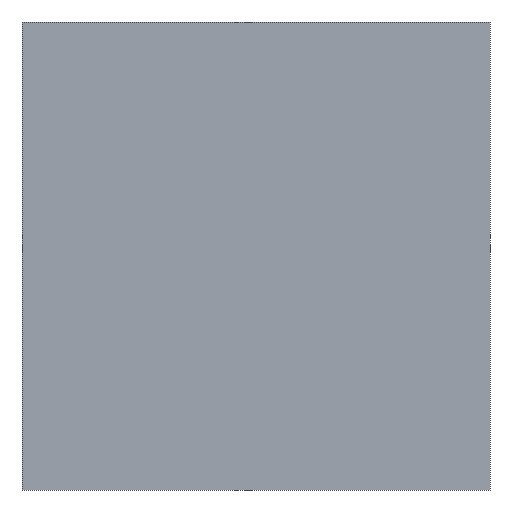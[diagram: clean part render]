
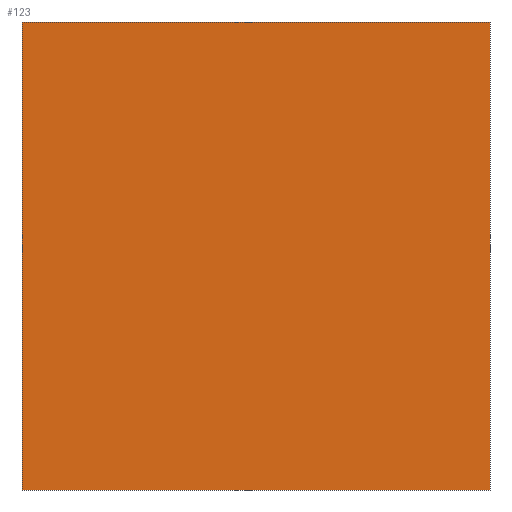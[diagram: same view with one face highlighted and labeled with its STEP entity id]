
A CAD part, front view. The second image highlights one B-rep face of the part: STEP entity #123.
In plain terms, the highlighted planar face has unit normal (0, -1, 0).
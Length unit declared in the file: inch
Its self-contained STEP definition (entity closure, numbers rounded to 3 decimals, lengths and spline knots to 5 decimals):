
#4 = VECTOR ( 'NONE', #51, 39.37008 ) ;
#7 = CARTESIAN_POINT ( 'NONE',  ( 1., -0.75, 1. ) ) ;
#13 = VECTOR ( 'NONE', #21, 39.37008 ) ;
#21 = DIRECTION ( 'NONE',  ( -1., 0., 0. ) ) ;
#23 = EDGE_CURVE ( 'NONE', #32, #210, #153, .T. ) ;
#30 = VECTOR ( 'NONE', #263, 39.37008 ) ;
#32 = VERTEX_POINT ( 'NONE', #38 ) ;
#37 = ORIENTED_EDGE ( 'NONE', *, *, #259, .F. ) ;
#38 = CARTESIAN_POINT ( 'NONE',  ( 1., -0.75, -1. ) ) ;
#45 = CARTESIAN_POINT ( 'NONE',  ( -1., -0.75, -1. ) ) ;
#46 = DIRECTION ( 'NONE',  ( 0., 1., 0. ) ) ;
#49 = LINE ( 'NONE', #139, #4 ) ;
#51 = DIRECTION ( 'NONE',  ( 0., 0., 1. ) ) ;
#69 = PLANE ( 'NONE',  #271 ) ;
#72 = LINE ( 'NONE', #176, #273 ) ;
#98 = EDGE_CURVE ( 'NONE', #278, #257, #110, .T. ) ;
#107 = CARTESIAN_POINT ( 'NONE',  ( -1., -0.75, 1. ) ) ;
#110 = LINE ( 'NONE', #107, #30 ) ;
#120 = CARTESIAN_POINT ( 'NONE',  ( -1., -0.75, -1. ) ) ;
#123 = ADVANCED_FACE ( 'NONE', ( #268 ), #69, .F. ) ;
#134 = DIRECTION ( 'NONE',  ( 0., 0., 1. ) ) ;
#139 = CARTESIAN_POINT ( 'NONE',  ( -1., -0.75, -1. ) ) ;
#143 = ORIENTED_EDGE ( 'NONE', *, *, #226, .F. ) ;
#144 = ORIENTED_EDGE ( 'NONE', *, *, #23, .F. ) ;
#153 = LINE ( 'NONE', #45, #13 ) ;
#159 = CARTESIAN_POINT ( 'NONE',  ( -1., -0.75, 1. ) ) ;
#176 = CARTESIAN_POINT ( 'NONE',  ( 1., -0.75, -1. ) ) ;
#181 = DIRECTION ( 'NONE',  ( 0., 0., -1. ) ) ;
#184 = EDGE_LOOP ( 'NONE', ( #143, #144, #37, #258 ) ) ;
#210 = VERTEX_POINT ( 'NONE', #120 ) ;
#226 = EDGE_CURVE ( 'NONE', #210, #278, #49, .T. ) ;
#246 = CARTESIAN_POINT ( 'NONE',  ( -1., -0.75, 1. ) ) ;
#257 = VERTEX_POINT ( 'NONE', #7 ) ;
#258 = ORIENTED_EDGE ( 'NONE', *, *, #98, .F. ) ;
#259 = EDGE_CURVE ( 'NONE', #257, #32, #72, .T. ) ;
#263 = DIRECTION ( 'NONE',  ( 1., 0., 0. ) ) ;
#268 = FACE_OUTER_BOUND ( 'NONE', #184, .T. ) ;
#271 = AXIS2_PLACEMENT_3D ( 'NONE', #246, #46, #134 ) ;
#273 = VECTOR ( 'NONE', #181, 39.37008 ) ;
#278 = VERTEX_POINT ( 'NONE', #159 ) ;
